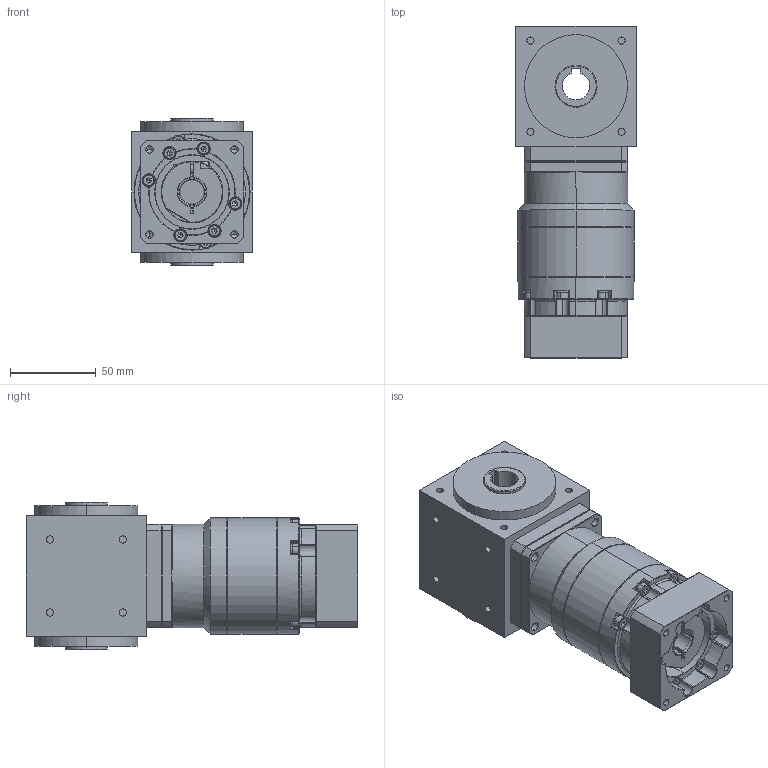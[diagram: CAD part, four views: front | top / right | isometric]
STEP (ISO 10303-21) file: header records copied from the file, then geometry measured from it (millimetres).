
FILE_DESCRIPTION (( 'STEP AP203' ), '1' );
FILE_NAME ('AAW070AS-L2-CR 14-50-70-M5.STEP', '2024-12-23T08:30:55', ( '' ), ( '' ), 'SwSTEP 2.0', 'SolidWorks 2021', '' );
FILE_SCHEMA (( 'CONFIG_CONTROL_DESIGN' ));
Length unit declared in the file: millimetre
Products named in the file (3): AAW070AS-L1-CR 14-50-70-M5; VRB-060-L2-S2-P1 14-50-70-M5; AAW070AS-L2-CR 14-50-70-M5
Assembly tree (2 placements, depth 2):
  AAW070AS-L2-CR 14-50-70-M5
    AAW070AS-L1-CR 14-50-70-M5
    VRB-060-L2-S2-P1 14-50-70-M5
Bounding box: 70 x 193 x 86 mm (x, y, z)
Volume: 653969.5 mm3; surface area: 116190.9 mm2
Topology: 33 solids, 33 shells, 1048 faces, 2541 edges, 1581 vertices
Faces by surface type: plane 415, cylinder 371, cone 196, torus 54, bspline 12
Entity records: 31960 total; most frequent: CARTESIAN_POINT 6894, DIRECTION 5498, ORIENTED_EDGE 4986, EDGE_CURVE 2493, AXIS2_PLACEMENT_3D 2196, VERTEX_POINT 1581, EDGE_LOOP 1164, CIRCLE 1155
